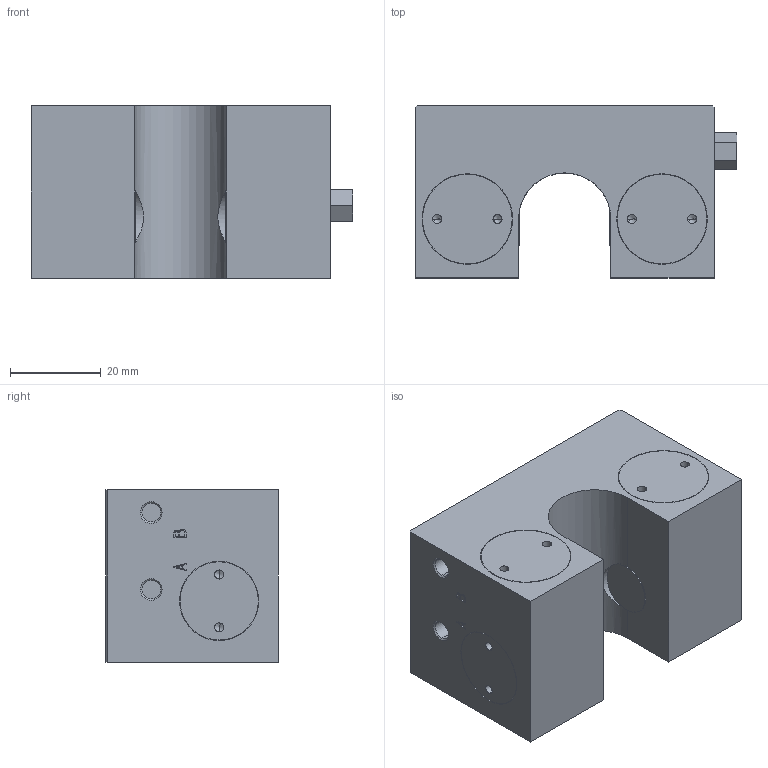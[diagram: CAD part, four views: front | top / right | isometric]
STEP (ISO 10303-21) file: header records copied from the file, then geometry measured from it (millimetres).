
FILE_DESCRIPTION( ( '' ), '1' );
FILE_NAME( 'E:/04 嬴檜蠱滌/0404 ZIMMER/040414 ZIMMER CAD download/MKR/MKR2000A.stp', '2020-04-16T10:10:06', ( '' ), ( '' ), ' ', ' ', ' ' );
FILE_SCHEMA( ( 'automotive_design' ) );
Length unit declared in the file: millimetre
Products named in the file (1): 1
Bounding box: 71 x 38 x 38 mm (x, y, z)
Volume: 77385.8 mm3; surface area: 16683.3 mm2
Topology: 1 solids, 2 shells, 184 faces, 426 edges, 264 vertices
Faces by surface type: plane 87, cylinder 65, cone 32
Entity records: 10132 total; most frequent: CARTESIAN_POINT 1049, DIRECTION 914, STYLED_ITEM 859, PRESENTATION_STYLE_ASSIGNMENT 859, COLOUR_RGB 859, ORIENTED_EDGE 820, EDGE_CURVE 410, CURVE_STYLE 410
